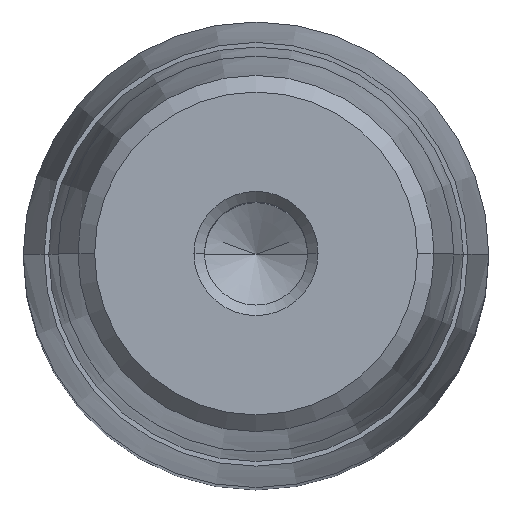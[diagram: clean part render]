
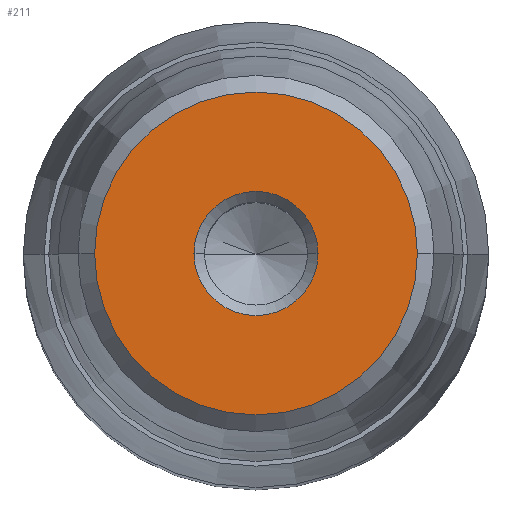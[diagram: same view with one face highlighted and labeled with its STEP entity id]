
A CAD part, top view. The second image highlights one B-rep face of the part: STEP entity #211.
In plain terms, the highlighted planar face has unit normal (0, 0, 1).
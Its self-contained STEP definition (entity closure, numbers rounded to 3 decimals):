
#136=CARTESIAN_POINT('Axis2P3D Location',(0.,0.,48.)) ;
#140=CARTESIAN_POINT('Vertex',(-4.,0.,48.)) ;
#142=CARTESIAN_POINT('Vertex',(4.,0.,48.)) ;
#179=CARTESIAN_POINT('Axis2P3D Location',(0.,4.,48.)) ;
#184=CARTESIAN_POINT('Axis2P3D Location',(0.,0.,48.)) ;
#188=CARTESIAN_POINT('Vertex',(-10.4,0.,48.)) ;
#190=CARTESIAN_POINT('Vertex',(10.4,0.,48.)) ;
#193=CARTESIAN_POINT('Axis2P3D Location',(0.,0.,48.)) ;
#202=CARTESIAN_POINT('Axis2P3D Location',(0.,0.,48.)) ;
#137=DIRECTION('Axis2P3D Direction',(0.,-0.,1.)) ;
#180=DIRECTION('Axis2P3D Direction',(0.,0.,-1.)) ;
#181=DIRECTION('Axis2P3D XDirection',(-1.,0.,0.)) ;
#185=DIRECTION('Axis2P3D Direction',(0.,0.,-1.)) ;
#194=DIRECTION('Axis2P3D Direction',(0.,0.,-1.)) ;
#203=DIRECTION('Axis2P3D Direction',(0.,0.,-1.)) ;
#138=AXIS2_PLACEMENT_3D('Circle Axis2P3D',#136,#137,$) ;
#182=AXIS2_PLACEMENT_3D('Plane Axis2P3D',#179,#180,#181) ;
#186=AXIS2_PLACEMENT_3D('Circle Axis2P3D',#184,#185,$) ;
#195=AXIS2_PLACEMENT_3D('Circle Axis2P3D',#193,#194,$) ;
#204=AXIS2_PLACEMENT_3D('Circle Axis2P3D',#202,#203,$) ;
#199=ORIENTED_EDGE('',*,*,#192,.F.) ;
#200=ORIENTED_EDGE('',*,*,#197,.F.) ;
#208=ORIENTED_EDGE('',*,*,#206,.T.) ;
#209=ORIENTED_EDGE('',*,*,#144,.T.) ;
#210=FACE_BOUND('',#207,.T.) ;
#211=ADVANCED_FACE('722-30x112x145',(#201,#210),#183,.F.) ;
#139=CIRCLE('generated circle',#138,4.) ;
#187=CIRCLE('generated circle',#186,10.4) ;
#196=CIRCLE('generated circle',#195,10.4) ;
#205=CIRCLE('generated circle',#204,4.) ;
#144=EDGE_CURVE('',#141,#143,#139,.F.) ;
#192=EDGE_CURVE('',#189,#191,#187,.T.) ;
#197=EDGE_CURVE('',#191,#189,#196,.T.) ;
#206=EDGE_CURVE('',#143,#141,#205,.T.) ;
#198=EDGE_LOOP('',(#199,#200)) ;
#207=EDGE_LOOP('',(#208,#209)) ;
#201=FACE_OUTER_BOUND('',#198,.T.) ;
#183=PLANE('Plane',#182) ;
#141=VERTEX_POINT('',#140) ;
#143=VERTEX_POINT('',#142) ;
#189=VERTEX_POINT('',#188) ;
#191=VERTEX_POINT('',#190) ;
